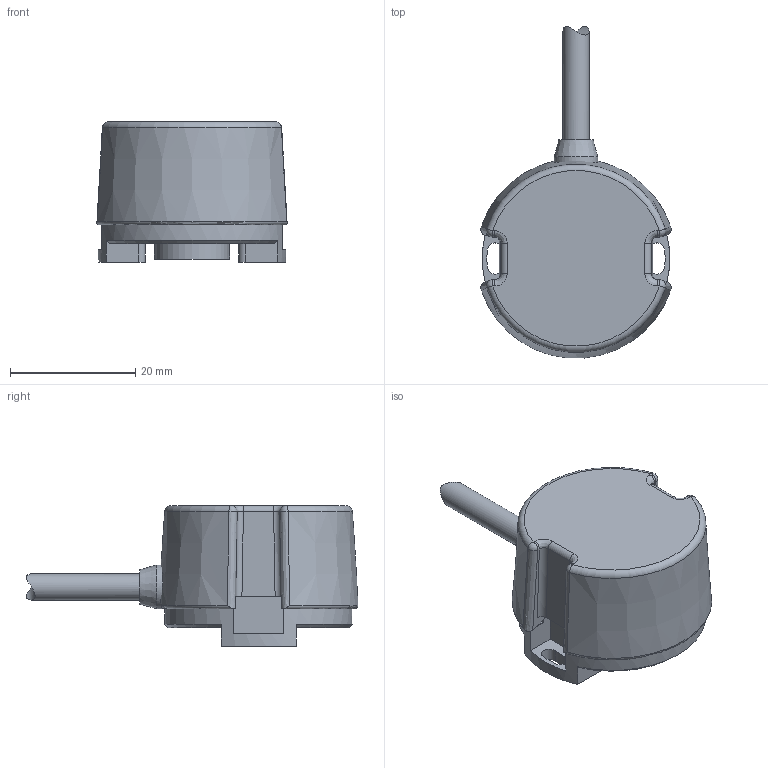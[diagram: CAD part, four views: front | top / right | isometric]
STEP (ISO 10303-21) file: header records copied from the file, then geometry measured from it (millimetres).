
FILE_DESCRIPTION(('STEP AP242'),'1');
FILE_NAME('.stp','2025-07-15T08:29:23',(' '),(' '),'Spatial InterOp 3D',' ',' ');
FILE_SCHEMA(('AP242_MANAGED_MODEL_BASED_3D_ENGINEERING_MIM_LF {1 0 10303 442 1 1 4}'));
Length unit declared in the file: millimetre
Products named in the file (3): L0I01 MGH-20-＊＊＊E; 011664 ケース MG20 モジュール
Assembly tree (2 placements, depth 2):
  L0I01 MGH-20-＊＊＊E
    011664 ケース MG20 モジュール
    L0I01 MGH-20-＊＊＊E
Bounding box: 30.46 x 53.1 x 22.5 mm (x, y, z)
Volume: 7567.8 mm3; surface area: 11794.4 mm2
Topology: 2 solids, 11 shells, 737 faces, 1933 edges, 1255 vertices
Faces by surface type: plane 477, cylinder 177, cone 38, bspline 21, torus 15, sphere 9
Full cylindrical faces by diameter (mm): 0.45 x2, 0.5 x5, 0.8 x10, 1 x1, 1.1 x4, 1.25 x8, 1.4 x8, 1.6 x14, 1.8 x4, 2.1 x2, 2.5 x2, 3.5 x2, 4.05 x1, 4.2 x1, 4.65 x1, 4.7 x1, 5 x1, 7 x2, 9 x2, 9.5 x1, 11 x1, 12 x2, 13 x1, 14 x1, 22 x1, 30 x1
Entity records: 29210 total; most frequent: CARTESIAN_POINT 5438, DIRECTION 3653, ORIENTED_EDGE 3526, EDGE_CURVE 1763, AXIS2_PLACEMENT_3D 1253, VERTEX_POINT 1214, LINE 1147, VECTOR 1147
